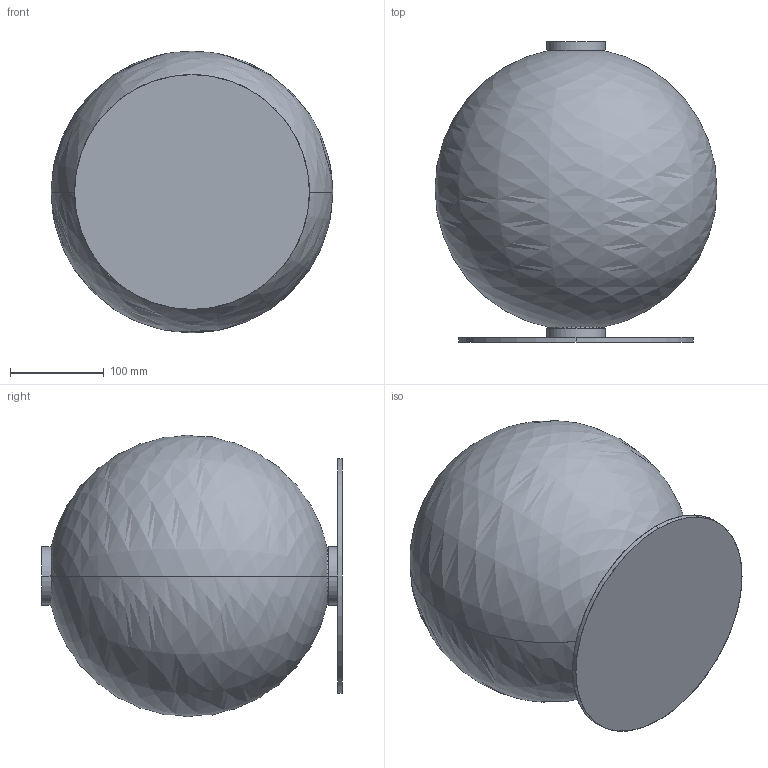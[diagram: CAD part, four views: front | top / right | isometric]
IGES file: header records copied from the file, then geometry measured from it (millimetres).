
Start section: SolidWorks IGES file using analytic representation for surfaces
Global section: file name: \\ARNOLD\compartida\Nueva Coleccion Septiembre 2026\LUDO_1368\LUDO_S1368\3D\LUDO_S1368.IGS; native system: SolidWorks 2023; preprocessor: SolidWorks 2023; author: adrian; date: 260827.133147; units: millimetre
Bounding box: 299.99 x 320 x 299.99 mm (x, y, z)
Surface area: 461255.6 mm2 (no closed solid volume)
Topology: 0 solids, 0 shells, 91 faces, 916 edges, 914 vertices
Faces by surface type: revolution 47, bspline 44
